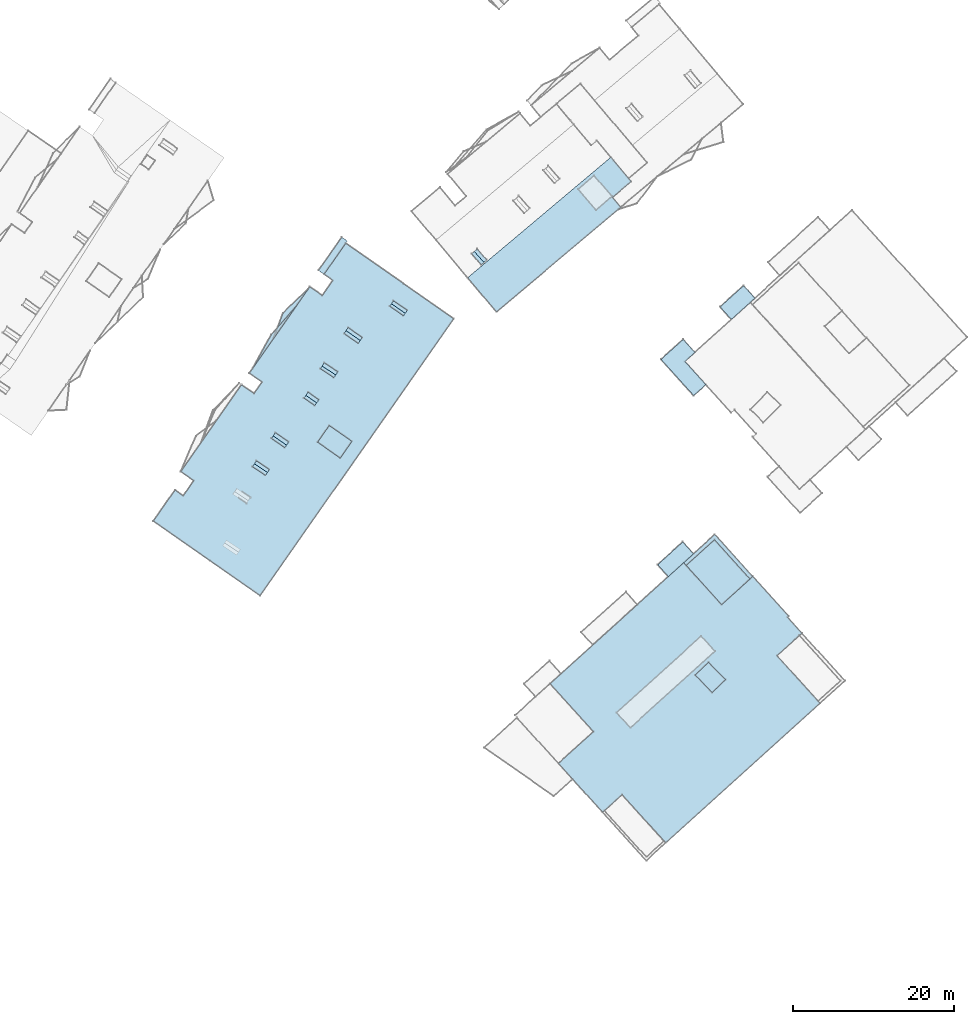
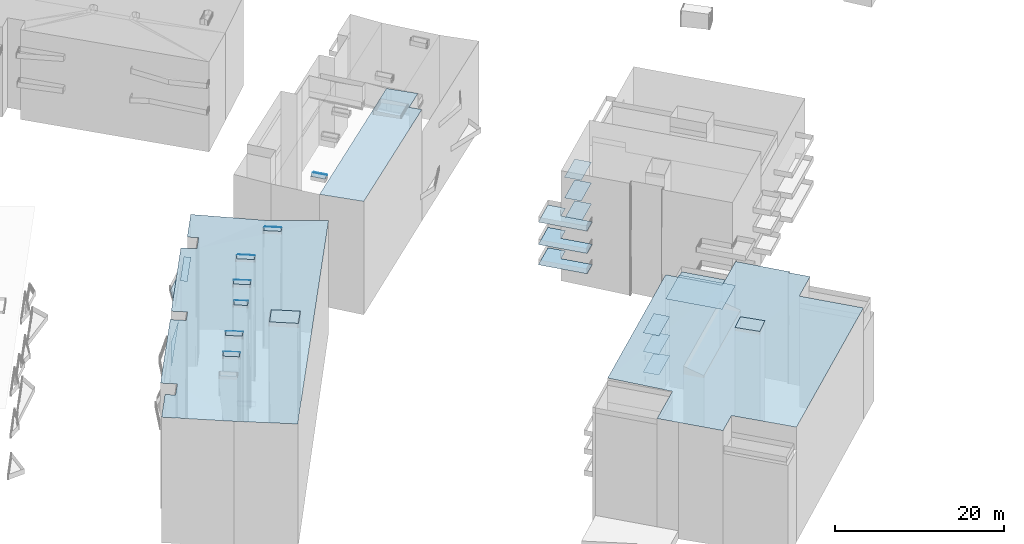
# Not in any storey, part 126 of 136: 66 roofs.
"""IFC2X3 building model written with IfcOpenShell, lengths in metres."""

from ifc_helpers import new_model, entity, si_unit, converted_unit, frame, origin, place, context, subcontext, project, spatial, face_set, surface_model, element, save


model = new_model("IFC2X3")

# Units and contexts
model_context = context("Model", 3, precision=1e-05, world=origin())
body_context = subcontext(model_context, "Body", "Model", "MODEL_VIEW")
ifc_project = project(units=[converted_unit("PLANEANGLEUNIT", "DEGREE", entity("IfcRatioMeasure", 0.0174532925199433), si_unit("PLANEANGLEUNIT", "RADIAN"), dimensions=[0, 0, 0, 0, 0, 0, 0]), si_unit("AREAUNIT", "SQUARE_METRE"), si_unit("LENGTHUNIT", "METRE")], contexts=[model_context])

# Site, building
site_placement = place(None, origin())
site = spatial("IfcSite", under=ifc_project, at=site_placement, Name="_site", CompositionType="ELEMENT")
building_1_placement = place(site_placement, origin())
building_1 = spatial("IfcBuilding", under=site, at=building_1_placement, Name="_building", CompositionType="ELEMENT")

# Roofs
for number, where, name in (
    (1, (0.0, 0.0, 0.0), "Roof"),
    (2, (0.0, 0.0, 0.0), "Roof"),
):
    element("IfcRoof", number, at=place(building_1_placement, frame(where)), inside=building_1, Name=name, ShapeType="NOTDEFINED", context=body_context, shape_type="SurfaceModel", body=[
        surface_model("IfcFaceBasedSurfaceModel", [(16.8, 35.07, 54.65), (17.07, 35.46, 54.38), (15.73, 36.39, 54.38), (15.46, 36.0, 54.65)], [face_set([[[0, 1, 2, 3]]])]),
    ])
for number, where, name in (
    (3, (0.0, 0.0, 0.0), "Roof"),
    (4, (0.0, 0.0, 0.0), "Roof"),
):
    element("IfcRoof", number, at=place(building_1_placement, frame(where)), inside=building_1, Name=name, ShapeType="NOTDEFINED", context=body_context, shape_type="SurfaceModel", body=[
        surface_model("IfcFaceBasedSurfaceModel", [(27.83, 46.23, 54.62), (28.09, 46.601, 54.45), (26.37, 47.78, 54.45), (26.12, 47.41, 54.62)], [face_set([[[0, 1, 2, 3]]])]),
    ])
for number, where, name in (
    (5, (0.0, 0.0, 0.0), "Roof"),
    (6, (0.0, 0.0, 0.0), "Roof"),
):
    element("IfcRoof", number, at=place(building_1_placement, frame(where)), inside=building_1, Name=name, ShapeType="NOTDEFINED", context=body_context, shape_type="SurfaceModel", body=[
        surface_model("IfcFaceBasedSurfaceModel", [(9.75, 11.04, 53.93), (33.88, 45.53, 54.01), (27.68, 49.87, 53.61), (20.43, 54.94, 53.93), (17.73, 51.08, 53.93), (18.83, 50.311, 53.93), (17.51, 48.43, 53.93), (15.95, 49.521, 53.93), (8.42, 38.76, 53.93), (10.0, 37.65, 53.93), (9.0, 36.22, 53.93), (7.44, 37.311, 53.93), (-0.12, 26.5, 53.93), (1.5, 25.37, 53.93), (0.19, 23.48, 53.93), (-0.84, 24.2, 53.93), (-3.54, 20.34, 53.93), (3.55, 15.38, 53.85)], [face_set([[[0, 1, 2, 3, 4, 5, 6, 7, 8, 9, 10, 11, 12, 13, 14, 15, 16, 17]]])]),
    ])
for number, where, name in (
    (7, (0.0, 0.0, 0.0), "Roof"),
    (8, (0.0, 0.0, 0.0), "Roof"),
):
    element("IfcRoof", number, at=place(building_1_placement, frame(where)), inside=building_1, Name=name, ShapeType="NOTDEFINED", context=body_context, shape_type="SurfaceModel", body=[
        surface_model("IfcFaceBasedSurfaceModel", [(22.22, 42.84, 54.61), (22.48, 43.21, 54.41), (20.72, 44.44, 54.41), (20.46, 44.07, 54.61)], [face_set([[[0, 1, 2, 3]]])]),
    ])
for number, where, name in (
    (9, (0.0, 0.0, 0.0), "Roof"),
    (10, (0.0, 0.0, 0.0), "Roof"),
):
    element("IfcRoof", number, at=place(building_1_placement, frame(where)), inside=building_1, Name=name, ShapeType="NOTDEFINED", context=body_context, shape_type="SurfaceModel", body=[
        surface_model("IfcFaceBasedSurfaceModel", [(19.17, 38.54, 54.69), (19.44, 38.94, 54.42), (17.75, 40.05, 54.42), (17.49, 39.65, 54.69)], [face_set([[[0, 1, 2, 3]]])]),
    ])
for number, where, name in (
    (11, (0.0, 0.0, 0.0), "Roof"),
    (12, (0.0, 0.0, 0.0), "Roof"),
):
    element("IfcRoof", number, at=place(building_1_placement, frame(where)), inside=building_1, Name=name, ShapeType="NOTDEFINED", context=body_context, shape_type="SurfaceModel", body=[
        surface_model("IfcFaceBasedSurfaceModel", [(13.05, 29.8, 54.72), (13.33, 30.2, 54.41), (11.67, 31.351, 54.41), (11.39, 30.95, 54.72)], [face_set([[[0, 1, 2, 3]]])]),
    ])
for number, where, name in (
    (13, (0.0, 0.0, 0.0), "Roof"),
    (14, (0.0, 0.0, 0.0), "Roof"),
):
    element("IfcRoof", number, at=place(building_1_placement, frame(where)), inside=building_1, Name=name, ShapeType="NOTDEFINED", context=body_context, shape_type="SurfaceModel", body=[
        surface_model("IfcFaceBasedSurfaceModel", [(10.67, 26.39, 54.68), (10.92, 26.75, 54.34), (9.3, 27.851, 54.34), (9.05, 27.48, 54.68)], [face_set([[[0, 1, 2, 3]]])]),
    ])
roof_1_placement = place(building_1_placement, origin())
element("IfcRoof", 15, at=roof_1_placement, inside=building_1, Name="Roof", ShapeType="NOTDEFINED", context=body_context, shape_type="SurfaceModel", body=[
    surface_model("IfcFaceBasedSurfaceModel", [(19.17, 38.54, 54.69), (17.49, 39.65, 54.69), (17.27, 39.32, 54.42), (18.95, 38.2, 54.42)], [face_set([[[0, 1, 2, 3]]])]),
])
for number, where, name in (
    (16, (0.0, 0.0, 0.0), "Roof"),
    (17, (0.0, 0.0, 0.0), "Roof"),
):
    element("IfcRoof", number, at=place(building_1_placement, frame(where)), inside=building_1, Name=name, ShapeType="NOTDEFINED", context=body_context, shape_type="SurfaceModel", body=[
        surface_model("IfcFaceBasedSurfaceModel", [(27.83, 46.23, 54.62), (26.12, 47.41, 54.62), (25.9, 47.09, 54.43), (27.61, 45.91, 54.43)], [face_set([[[0, 1, 2, 3]]])]),
    ])
roof_2_placement = place(building_1_placement, origin())
element("IfcRoof", 18, at=roof_2_placement, inside=building_1, Name="Roof", ShapeType="NOTDEFINED", context=body_context, shape_type="SurfaceModel", body=[
    surface_model("IfcFaceBasedSurfaceModel", [(22.22, 42.84, 54.61), (20.46, 44.07, 54.61), (20.21, 43.7, 54.4), (21.97, 42.47, 54.4)], [face_set([[[0, 1, 2, 3]]])]),
])
roof_3_placement = place(building_1_placement, origin())
element("IfcRoof", 19, at=roof_3_placement, inside=building_1, Name="Roof", ShapeType="NOTDEFINED", context=body_context, shape_type="SurfaceModel", body=[
    surface_model("IfcFaceBasedSurfaceModel", [(16.8, 35.07, 54.65), (15.46, 36.0, 54.65), (15.22, 35.66, 54.34), (16.56, 34.73, 54.34)], [face_set([[[0, 1, 2, 3]]])]),
])
for number, where, name in (
    (20, (0.0, 0.0, 0.0), "Roof"),
    (21, (0.0, 0.0, 0.0), "Roof"),
):
    element("IfcRoof", number, at=place(building_1_placement, frame(where)), inside=building_1, Name=name, ShapeType="NOTDEFINED", context=body_context, shape_type="SurfaceModel", body=[
        surface_model("IfcFaceBasedSurfaceModel", [(13.05, 29.8, 54.72), (11.39, 30.95, 54.72), (11.17, 30.63, 54.39), (12.83, 29.48, 54.39)], [face_set([[[0, 1, 2, 3]]])]),
    ])
roof_4_placement = place(building_1_placement, origin())
element("IfcRoof", 22, at=roof_4_placement, inside=building_1, Name="Roof", ShapeType="NOTDEFINED", context=body_context, shape_type="SurfaceModel", body=[
    surface_model("IfcFaceBasedSurfaceModel", [(10.67, 26.39, 54.68), (9.05, 27.48, 54.68), (8.8, 27.11, 54.34), (10.42, 26.021, 54.34)], [face_set([[[0, 1, 2, 3]]])]),
])
for number, where, name in (
    (23, (0.0, 0.0, 0.0), "Roof"),
    (24, (0.0, 0.0, 0.0), "Roof"),
):
    element("IfcRoof", number, at=place(building_1_placement, frame(where)), inside=building_1, Name=name, ShapeType="NOTDEFINED", context=body_context, shape_type="SurfaceModel", body=[
        surface_model("IfcFaceBasedSurfaceModel", [(19.74, 28.18, 54.61), (21.2, 30.26, 54.61), (18.37, 32.24, 54.61), (16.92, 30.16, 54.61)], [face_set([[[0, 1, 2, 3]]])]),
    ])
roof_5_placement = place(building_1_placement, origin())
element("IfcRoof", 25, at=roof_5_placement, inside=building_1, Name="Roof", ShapeType="NOTDEFINED", context=body_context, shape_type="SurfaceModel", body=[
    surface_model("IfcFaceBasedSurfaceModel", [(10.67, 26.39, 54.68), (9.05, 27.48, 54.68), (8.8, 27.11, 54.34), (10.42, 26.021, 54.34)], [face_set([[[0, 1, 2, 3]]])]),
])
for number, where, name in (
    (26, (0.0, 0.0, 0.0), "Roof"),
    (27, (0.0, 0.0, 0.0), "Roof"),
):
    element("IfcRoof", number, at=place(building_1_placement, frame(where)), inside=building_1, Name=name, ShapeType="NOTDEFINED", context=body_context, shape_type="SurfaceModel", body=[
        surface_model("IfcFaceBasedSurfaceModel", [(11.45, 43.09, 50.94), (15.76, 49.25, 50.94), (12.61, 46.26, 50.94)], [face_set([[[0, 1, 2]]])]),
    ])
roof_6_placement = place(building_1_placement, origin())
element("IfcRoof", 28, at=roof_6_placement, inside=building_1, Name="Roof", ShapeType="NOTDEFINED", context=body_context, shape_type="SurfaceModel", body=[
    surface_model("IfcFaceBasedSurfaceModel", [(22.22, 42.84, 54.61), (20.46, 44.07, 54.61), (20.21, 43.7, 54.4), (21.97, 42.47, 54.4)], [face_set([[[0, 1, 2, 3]]])]),
])
roof_7_placement = place(building_1_placement, origin())
element("IfcRoof", 29, at=roof_7_placement, inside=building_1, Name="Roof", ShapeType="NOTDEFINED", context=body_context, shape_type="SurfaceModel", body=[
    surface_model("IfcFaceBasedSurfaceModel", [(16.8, 35.07, 54.65), (15.46, 36.0, 54.65), (15.22, 35.66, 54.34), (16.56, 34.73, 54.34)], [face_set([[[0, 1, 2, 3]]])]),
])
for number, where, name in (
    (30, (0.0, 0.0, 0.0), "Roof"),
    (31, (0.0, 0.0, 0.0), "Roof"),
):
    element("IfcRoof", number, at=place(building_1_placement, frame(where)), inside=building_1, Name=name, ShapeType="NOTDEFINED", context=body_context, shape_type="SurfaceModel", body=[
        surface_model("IfcFaceBasedSurfaceModel", [(17.04, 51.561, 47.51), (17.73, 51.08, 47.51), (20.43, 54.94, 47.51), (20.63, 55.23, 47.51), (19.94, 55.71, 47.51)], [face_set([[[0, 1, 2, 3, 4]]])]),
    ])
for number, where, name in (
    (32, (0.0, 0.0, 0.0), "Roof"),
    (33, (0.0, 0.0, 0.0), "Roof"),
):
    element("IfcRoof", number, at=place(building_1_placement, frame(where)), inside=building_1, Name=name, ShapeType="NOTDEFINED", context=body_context, shape_type="SurfaceModel", body=[
        surface_model("IfcFaceBasedSurfaceModel", [(11.17, 43.58, 45.44), (8.82, 39.33, 45.44), (14.4, 47.3, 45.44)], [face_set([[[0, 1, 2]]])]),
    ])
roof_8_placement = place(building_1_placement, origin())
element("IfcRoof", 34, at=roof_8_placement, inside=building_1, Name="Roof", ShapeType="NOTDEFINED", context=body_context, shape_type="SurfaceModel", body=[
    surface_model("IfcFaceBasedSurfaceModel", [(19.17, 38.54, 54.69), (17.49, 39.65, 54.69), (17.27, 39.32, 54.42), (18.95, 38.2, 54.42)], [face_set([[[0, 1, 2, 3]]])]),
])

# Building
building_2_placement = place(site_placement, origin())
building_2 = spatial("IfcBuilding", under=site, at=building_2_placement, Name="_building", CompositionType="ELEMENT")

# Roofs
roof_9_placement = place(building_2_placement, origin())
element("IfcRoof", 35, at=roof_9_placement, inside=building_2, Name="Roof", ShapeType="NOTDEFINED", context=body_context, shape_type="SurfaceModel", body=[
    surface_model("IfcFaceBasedSurfaceModel", [(37.64, 52.561, 54.94), (36.44, 53.92, 54.94), (36.12, 53.64, 54.74), (37.32, 52.271, 54.74)], [face_set([[[0, 1, 2, 3]]])]),
])
for number, where, name in (
    (36, (0.0, 0.0, 0.0), "Roof"),
    (37, (0.0, 0.0, 0.0), "Roof"),
):
    element("IfcRoof", number, at=place(building_2_placement, frame(where)), inside=building_2, Name=name, ShapeType="NOTDEFINED", context=body_context, shape_type="SurfaceModel", body=[
        surface_model("IfcFaceBasedSurfaceModel", [(37.64, 52.561, 54.94), (38.0, 52.88, 54.79), (36.8, 54.25, 54.79), (36.44, 53.92, 54.94)], [face_set([[[0, 1, 2, 3]]])]),
    ])
roof_10_placement = place(building_2_placement, origin())
element("IfcRoof", 38, at=roof_10_placement, inside=building_2, Name="Roof", ShapeType="NOTDEFINED", context=body_context, shape_type="SurfaceModel", body=[
    surface_model("IfcFaceBasedSurfaceModel", [(37.64, 52.561, 54.94), (36.44, 53.92, 54.94), (36.12, 53.64, 54.74), (37.32, 52.271, 54.74)], [face_set([[[0, 1, 2, 3]]])]),
])
for number, where, name in (
    (39, (0.0, 0.0, 0.0), "Roof"),
    (40, (0.0, 0.0, 0.0), "Roof"),
):
    element("IfcRoof", number, at=place(building_2_placement, frame(where)), inside=building_2, Name=name, ShapeType="NOTDEFINED", context=body_context, shape_type="SurfaceModel", body=[
        surface_model("IfcFaceBasedSurfaceModel", [(35.62, 50.67, 54.1), (39.21, 46.4, 54.41), (54.7, 59.43, 54.41), (53.66, 60.67, 54.32), (56.01, 62.64, 54.32), (53.832, 65.231, 54.132), (53.458, 65.678, 54.1)], [face_set([[[0, 1, 2, 3, 4, 5, 6]]])]),
    ])

# Building
building_3_placement = place(site_placement, origin())
building_3 = spatial("IfcBuilding", under=site, at=building_3_placement, Name="_building", CompositionType="ELEMENT")

# Roofs
for number, where, name in (
    (41, (0.0, 0.0, 0.0), "Roof"),
    (42, (0.0, 0.0, 0.0), "Roof"),
):
    element("IfcRoof", number, at=place(building_3_placement, frame(where)), inside=building_3, Name=name, ShapeType="NOTDEFINED", context=body_context, shape_type="SurfaceModel", body=[
        surface_model("IfcFaceBasedSurfaceModel", [(68.47, 45.46, 47.79), (71.4, 48.11, 47.79), (69.99, 49.67, 47.79), (67.06, 47.021, 47.79)], [face_set([[[0, 1, 2, 3]]])]),
    ])
for number, where, name in (
    (43, (0.0, 0.0, 0.0), "Roof"),
    (44, (0.0, 0.0, 0.0), "Roof"),
):
    element("IfcRoof", number, at=place(building_3_placement, frame(where)), inside=building_3, Name=name, ShapeType="NOTDEFINED", context=body_context, shape_type="SurfaceModel", body=[
        surface_model("IfcFaceBasedSurfaceModel", [(63.93, 41.351, 41.65), (62.46, 42.97, 41.65), (59.7, 40.48, 41.65), (63.78, 35.98, 41.65), (65.29, 37.34, 41.65), (62.68, 40.22, 41.65)], [face_set([[[0, 1, 2, 3, 4, 5]]])]),
    ])
for number, where, name in (
    (45, (0.0, 0.0, 0.0), "Roof"),
    (46, (0.0, 0.0, 0.0), "Roof"),
):
    element("IfcRoof", number, at=place(building_3_placement, frame(where)), inside=building_3, Name=name, ShapeType="NOTDEFINED", context=body_context, shape_type="SurfaceModel", body=[
        surface_model("IfcFaceBasedSurfaceModel", [(63.93, 41.351, 44.59), (62.46, 42.97, 44.59), (59.7, 40.48, 44.59), (63.78, 35.98, 44.59), (65.29, 37.34, 44.59), (62.68, 40.22, 44.59)], [face_set([[[0, 1, 2, 3, 4, 5]]])]),
    ])
for number, where, name in (
    (47, (0.0, 0.0, 0.0), "Roof"),
    (48, (0.0, 0.0, 0.0), "Roof"),
):
    element("IfcRoof", number, at=place(building_3_placement, frame(where)), inside=building_3, Name=name, ShapeType="NOTDEFINED", context=body_context, shape_type="SurfaceModel", body=[
        surface_model("IfcFaceBasedSurfaceModel", [(68.47, 45.46, 44.79), (71.4, 48.11, 44.79), (69.99, 49.67, 44.79), (67.06, 47.021, 44.79)], [face_set([[[0, 1, 2, 3]]])]),
    ])
for number, where, name in (
    (49, (0.0, 0.0, 0.0), "Roof"),
    (50, (0.0, 0.0, 0.0), "Roof"),
):
    element("IfcRoof", number, at=place(building_3_placement, frame(where)), inside=building_3, Name=name, ShapeType="NOTDEFINED", context=body_context, shape_type="SurfaceModel", body=[
        surface_model("IfcFaceBasedSurfaceModel", [(63.93, 41.351, 47.83), (62.46, 42.97, 47.83), (59.7, 40.48, 47.83), (63.78, 35.98, 47.83), (65.29, 37.34, 47.83), (62.68, 40.22, 47.83)], [face_set([[[0, 1, 2, 3, 4, 5]]])]),
    ])
for number, where, name in (
    (51, (0.0, 0.0, 0.0), "Roof"),
    (52, (0.0, 0.0, 0.0), "Roof"),
):
    element("IfcRoof", number, at=place(building_3_placement, frame(where)), inside=building_3, Name=name, ShapeType="NOTDEFINED", context=body_context, shape_type="SurfaceModel", body=[
        surface_model("IfcFaceBasedSurfaceModel", [(68.47, 45.46, 41.76), (71.4, 48.11, 41.76), (69.99, 49.67, 41.76), (67.06, 47.021, 41.76)], [face_set([[[0, 1, 2, 3]]])]),
    ])

# Building
building_4_placement = place(site_placement, origin())
building_4 = spatial("IfcBuilding", under=site, at=building_4_placement, Name="_building", CompositionType="ELEMENT")

# Roofs
for number, where, name in (
    (53, (0.0, 0.0, 0.0), "Roof"),
    (54, (0.0, 0.0, 0.0), "Roof"),
):
    element("IfcRoof", number, at=place(building_4_placement, frame(where)), inside=building_4, Name=name, ShapeType="NOTDEFINED", context=body_context, shape_type="SurfaceModel", body=[
        surface_model("IfcFaceBasedSurfaceModel", [(60.62, 13.43, 41.74), (63.75, 16.26, 41.74), (62.41, 17.74, 41.74), (59.29, 14.91, 41.74)], [face_set([[[0, 1, 2, 3]]])]),
    ])
for number, where, name in (
    (55, (0.0, 0.0, 0.0), "Roof"),
    (56, (0.0, 0.0, 0.0), "Roof"),
):
    element("IfcRoof", number, at=place(building_4_placement, frame(where)), inside=building_4, Name=name, ShapeType="NOTDEFINED", context=body_context, shape_type="SurfaceModel", body=[
        surface_model("IfcFaceBasedSurfaceModel", [(65.62, 2.771, 54.92), (63.97, 1.16, 54.92), (66.09, -1.02, 54.92), (67.74, 0.601, 54.92)], [face_set([[[0, 1, 2, 3]]])]),
    ])
roof_11_placement = place(building_4_placement, origin())
element("IfcRoof", 57, at=roof_11_placement, inside=building_4, Name="Roof", ShapeType="NOTDEFINED", context=body_context, shape_type="SurfaceModel", body=[
    surface_model("IfcFaceBasedSurfaceModel", [(60.62, 13.43, 47.44), (63.75, 16.26, 47.44), (62.41, 17.74, 47.44), (59.29, 14.91, 47.44)], [face_set([[[0, 1, 2, 3]]])]),
])
for number, where, name in (
    (58, (0.0, 0.0, 0.0), "Roof"),
    (59, (0.0, 0.0, 0.0), "Roof"),
):
    element("IfcRoof", number, at=place(building_4_placement, frame(where)), inside=building_4, Name=name, ShapeType="NOTDEFINED", context=body_context, shape_type="SurfaceModel", body=[
        surface_model("IfcFaceBasedSurfaceModel", [(60.62, 13.43, 44.73), (63.75, 16.26, 44.73), (62.41, 17.74, 44.73), (59.29, 14.91, 44.73)], [face_set([[[0, 1, 2, 3]]])]),
    ])
for number, where, name in (
    (60, (0.0, 0.0, 0.0), "Roof"),
    (61, (0.0, 0.0, 0.0), "Roof"),
):
    element("IfcRoof", number, at=place(building_4_placement, frame(where)), inside=building_4, Name=name, ShapeType="NOTDEFINED", context=body_context, shape_type="SurfaceModel", body=[
        surface_model("IfcFaceBasedSurfaceModel", [(62.84, 14.82, 51.92), (67.26, 9.93, 51.92), (70.79, 13.13, 51.92), (66.37, 18.021, 51.92)], [face_set([[[0, 1, 2, 3]]])]),
    ])
for number, where, name in (
    (62, (0.0, 0.0, 0.0), "Roof"),
    (63, (0.0, 0.0, 0.0), "Roof"),
):
    element("IfcRoof", number, at=place(building_4_placement, frame(where)), inside=building_4, Name=name, ShapeType="NOTDEFINED", context=body_context, shape_type="SurfaceModel", body=[
        surface_model("IfcFaceBasedSurfaceModel", [(52.45, -15.93, 54.37), (54.87, -13.74, 54.37), (60.31, -19.74, 54.43), (79.53, -2.34, 54.43), (74.16, 3.58, 54.43), (77.26, 6.38, 54.47), (75.48, 8.34, 54.47), (75.63, 8.48, 54.47), (71.14, 13.44, 54.52), (67.26, 9.93, 54.57), (62.53, 15.16, 54.57), (45.9, 0.09, 54.57), (51.31, -5.88, 54.37), (46.93, -9.84, 54.37), (48.71, -11.81, 54.37)], [face_set([[[0, 1, 2, 3, 4, 5, 6, 7, 8, 9, 10, 11, 12, 13, 14]]])]),
    ])
roof_12_placement = place(building_4_placement, origin())
element("IfcRoof", 64, at=roof_12_placement, inside=building_4, Name="Roof", ShapeType="NOTDEFINED", context=body_context, shape_type="SurfaceModel", body=[
    surface_model("IfcFaceBasedSurfaceModel", [(60.62, 13.43, 47.44), (63.75, 16.26, 47.44), (62.41, 17.74, 47.44), (59.29, 14.91, 47.44)], [face_set([[[0, 1, 2, 3]]])]),
])
for number, where, name in (
    (65, (0.0, 0.0, 0.0), "Roof"),
    (66, (0.0, 0.0, 0.0), "Roof"),
):
    element("IfcRoof", number, at=place(building_4_placement, frame(where)), inside=building_4, Name=name, ShapeType="NOTDEFINED", context=body_context, shape_type="SurfaceModel", body=[
        surface_model("IfcFaceBasedSurfaceModel", [(62.53, 15.16, 51.06), (67.26, 9.93, 51.06), (71.14, 13.44, 51.06), (66.41, 18.67, 51.06)], [face_set([[[0, 1, 2, 3]]])]),
    ])

save(model, "model.ifc")
